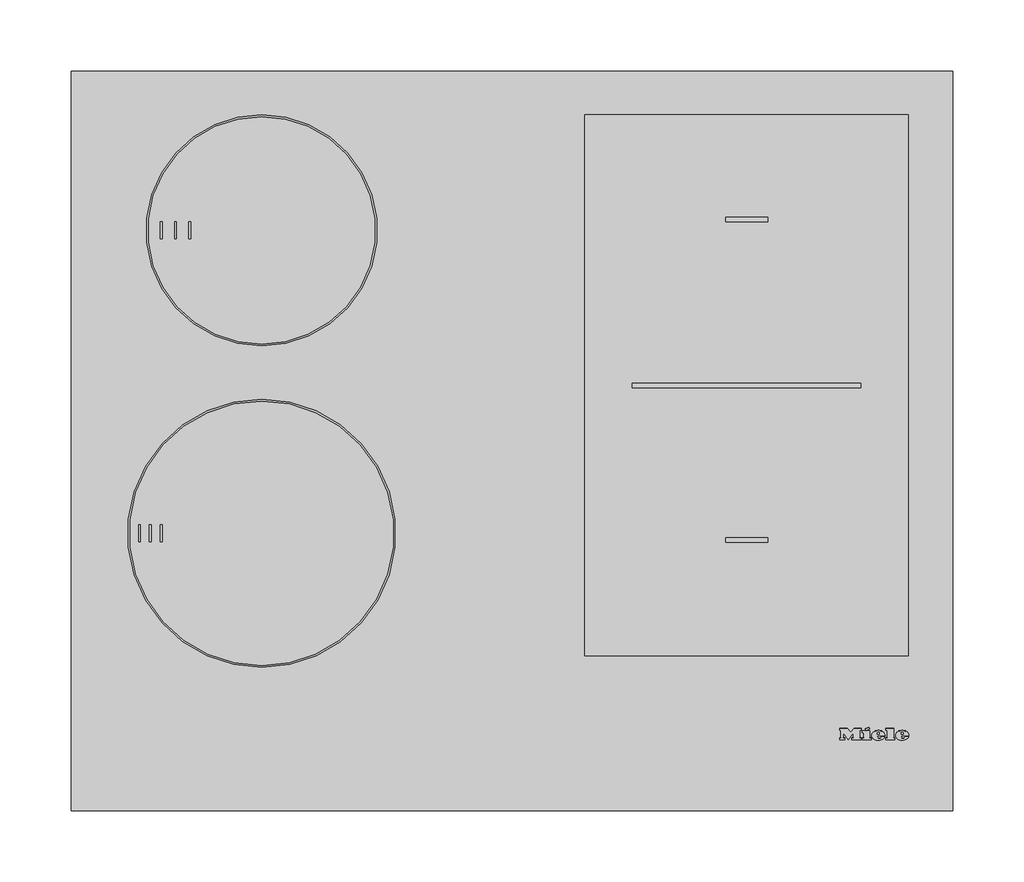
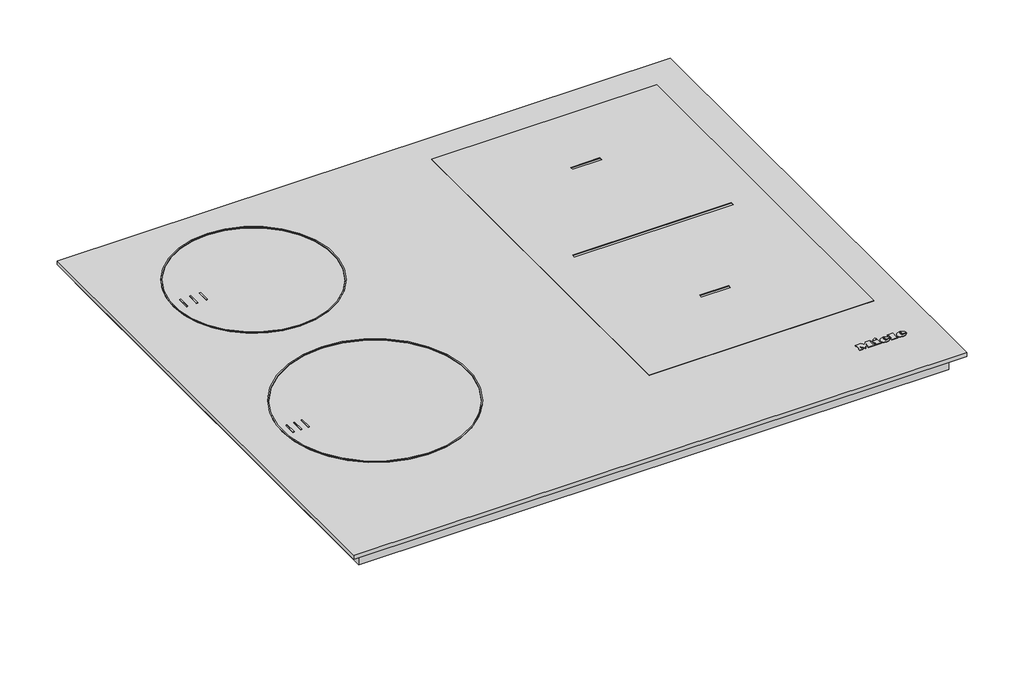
# Not in any storey: 1 proxy.
"""IFC4 building model written with IfcOpenShell, lengths in millimetres."""

from ifc_helpers import new_model, si_unit, origin, place, context, project, spatial, transform, mapped, element, save
from components import specialty_equipment_ddbcfdbc

model = new_model("IFC4")

# Units and contexts
model_context = context("Model", 3, world=origin())
ifc_project = project(units=[si_unit("LENGTHUNIT", "METRE", prefix="MILLI")], contexts=[model_context])

# Site, building
site = spatial("IfcSite", under=ifc_project)
building = spatial("IfcBuilding", under=site)

# Proxy
placement = place(None, origin())
specialty_equipment_shape = specialty_equipment_ddbcfdbc(model_context)
element("IfcBuildingElementProxy", 1, Name="12463620_TR_KM7466FL : 26746670_TR_12463620_KM7466FL", ObjectType="12463620_TR_KM7466FL : 26746670_TR_12463620_KM7466FL", at=placement, inside=building, context=model_context, shape_type="MappedRepresentation", body=[
    mapped(specialty_equipment_shape, transform((0.0, 0.0, 0.0), x_axis=(1.0, 0.0, 0.0), y_axis=(0.0, 1.0, 0.0), z_axis=(0.0, 0.0, 1.0))),
])

save(model, "model.ifc")
